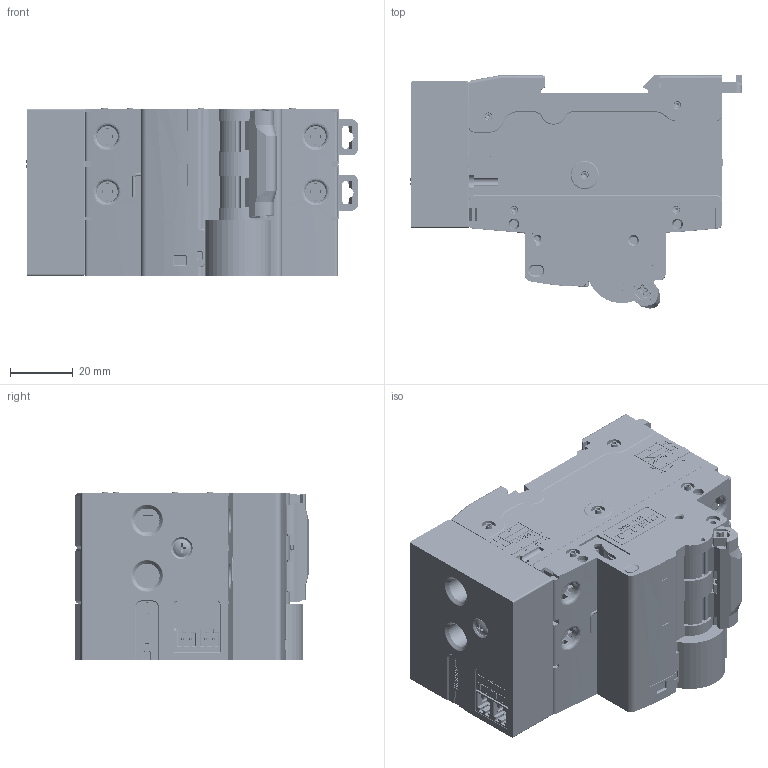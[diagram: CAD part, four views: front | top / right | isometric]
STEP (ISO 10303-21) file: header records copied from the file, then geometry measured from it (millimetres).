
FILE_DESCRIPTION((''),'2;1');
FILE_NAME('ASM0028_ASM','2023-11-10T',('wenjie.wang'),(''),'PRO/ENGINEER BY PARAMETRIC TECHNOLOGY CORPORATION, 2015440','PRO/ENGINEER BY PARAMETRIC TECHNOLOGY CORPORATION, 2015440','');
FILE_SCHEMA(('CONFIG_CONTROL_DESIGN'));
Products named in the file (3): 2255030800_SW0001; 5064059700; ASM0028_ASM
Assembly tree (2 placements, depth 2):
  ASM0028_ASM
    2255030800_SW0001
    5064059700
Bounding box: 106.18 x 74.6 x 53.85 mm (x, y, z)
Volume: 222946.2 mm3; surface area: 110087.5 mm2
Topology: 2 solids, 48 shells, 11607 faces, 31573 edges, 20202 vertices
Faces by surface type: plane 7053, cylinder 2406, extrusion 1185, cone 418, torus 270, bspline 141, sphere 134
Entity records: 381305 total; most frequent: CARTESIAN_POINT 92425, ORIENTED_EDGE 63098, DIRECTION 54618, EDGE_CURVE 31549, VECTOR 23488, LINE 22303, VERTEX_POINT 20203, AXIS2_PLACEMENT_3D 15565
